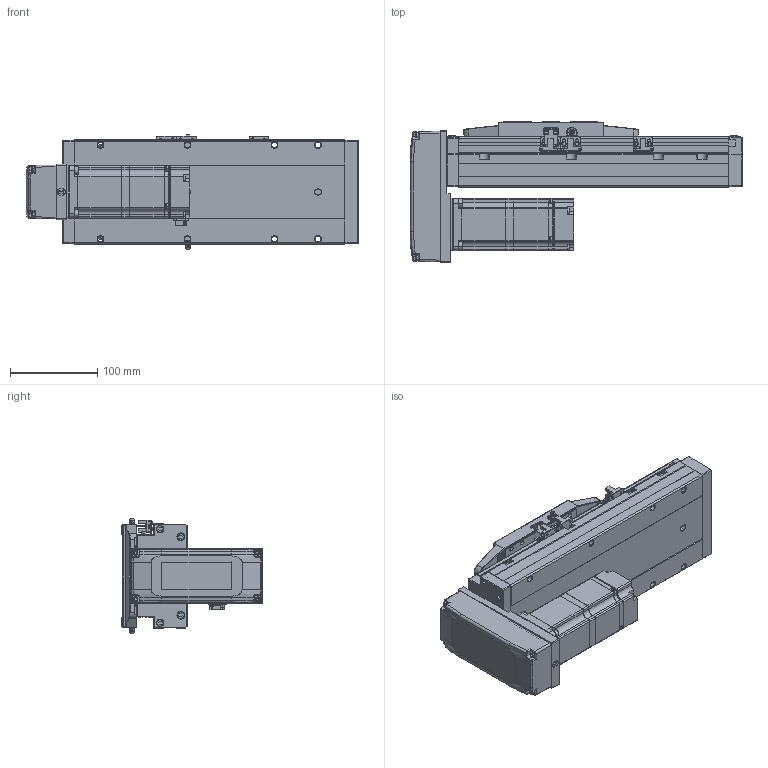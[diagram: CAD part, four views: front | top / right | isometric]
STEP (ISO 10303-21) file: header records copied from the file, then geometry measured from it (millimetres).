
FILE_DESCRIPTION (( 'STEP AP214' ), '1' );
FILE_NAME ('CTH12-L10-S100-BM-C40（简）.STEP', '2023-02-04T06:53:06', ( '' ), ( '' ), 'SwSTEP 2.0', 'SolidWorks 2018', '' );
FILE_SCHEMA (( 'AUTOMOTIVE_DESIGN' ));
Length unit declared in the file: millimetre
Products named in the file (25): AC60_Valor predeterminado; CTH400W垫板（3个厚）; BM-C40; 内六角圆柱头螺钉M3-1; CTH嫖萇羲壽假蚾啣; CTH12-L10-S100-BM-C40（简）; 湮賑怢  裔赽-1(CTH12)賑怢; 内六角圆柱头螺钉M3; CTH12賑怢郪磁; 内六角圆柱头螺钉M3-2; CTH12底座-L311简（100行程）; 蚐郲; CTH12-BM-02; CTH12賑怢ㄗ潠ㄘ; hex nuts, style 1-grades ab gb_GB_FASTENER_NUT_SNAB1 M3-N; CTH8耜蚾蟀諉啣ㄗ潠ㄘ; 嫖萇羲壽郪磁1; CTH12_body_3; CTH12覜茼え; CTH400W假蚾啣; PM-Y45; CTH12-BL_body_4; CTH12; 内六角圆柱头螺钉M5装饰螺钉; 嫖萇羲壽郪磁2
Assembly tree (45 placements, depth 4):
  CTH12-L10-S100-BM-C40（简）
    CTH12底座-L311简（100行程）
    蚐郲  x2
    CTH12_body_3
    CTH12-BL_body_4
    CTH12賑怢郪磁
      CTH12
        湮賑怢  裔赽-1(CTH12)賑怢
        CTH12賑怢ㄗ潠ㄘ
    CTH12覜茼え
    嫖萇羲壽郪磁1  x2
      CTH嫖萇羲壽假蚾啣
      PM-Y45
      内六角圆柱头螺钉M3-2
      内六角圆柱头螺钉M3-1
      hex nuts, style 1-grades ab gb_GB_FASTENER_NUT_SNAB1 M3-N
    嫖萇羲壽郪磁2
      CTH嫖萇羲壽假蚾啣
      PM-Y45
      内六角圆柱头螺钉M3-1  x2
      内六角圆柱头螺钉M3-2  x2
      hex nuts, style 1-grades ab gb_GB_FASTENER_NUT_SNAB1 M3-N  x2
    BM-C40
      CTH12-BM-02
      CTH8耜蚾蟀諉啣ㄗ潠ㄘ
    CTH400W垫板（3个厚）
    AC60_Valor predeterminado
    内六角圆柱头螺钉M3  x6
    内六角圆柱头螺钉M5装饰螺钉  x4
    CTH400W假蚾啣
Bounding box: 381.5 x 162.5 x 131.52 mm (x, y, z)
Volume: 2930890.9 mm3; surface area: 414989.7 mm2
Topology: 47 solids, 48 shells, 2601 faces, 6579 edges, 4197 vertices
Faces by surface type: plane 1422, cylinder 784, cone 243, bspline 100, torus 52
Entity records: 69849 total; most frequent: CARTESIAN_POINT 15893, ORIENTED_EDGE 10338, DIRECTION 10270, EDGE_CURVE 5169, AXIS2_PLACEMENT_3D 3475, LINE 3320, VECTOR 3320, VERTEX_POINT 3301
